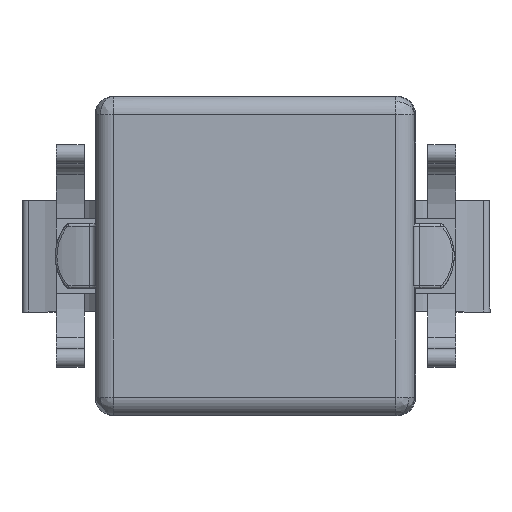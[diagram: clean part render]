
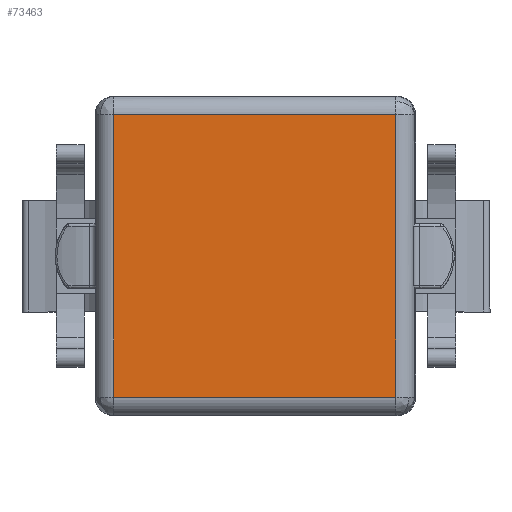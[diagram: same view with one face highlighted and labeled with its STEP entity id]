
A CAD part, top view. The second image highlights one B-rep face of the part: STEP entity #73463.
In plain terms, the highlighted planar face has unit normal (0, 0, 1).
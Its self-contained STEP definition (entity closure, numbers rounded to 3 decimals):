
#2880=DIRECTION('',(0.,1.,0.));
#2881=VECTOR('',#2880,30.4);
#2882=CARTESIAN_POINT('',(15.2,-14.401,23.672));
#2883=LINE('',#2882,#2881);
#3460=DIRECTION('',(1.,0.,0.));
#3461=VECTOR('',#3460,30.4);
#3462=CARTESIAN_POINT('',(-15.2,-14.401,23.672));
#3463=LINE('',#3462,#3461);
#3511=DIRECTION('',(0.,-1.,0.));
#3512=VECTOR('',#3511,30.4);
#3513=CARTESIAN_POINT('',(-15.2,15.999,23.672));
#3514=LINE('',#3513,#3512);
#4107=DIRECTION('',(-1.,0.,0.));
#4108=VECTOR('',#4107,30.4);
#4109=CARTESIAN_POINT('',(15.2,15.999,23.672));
#4110=LINE('',#4109,#4108);
#67816=CARTESIAN_POINT('',(-15.2,-14.401,23.672));
#67818=VERTEX_POINT('',#67816);
#67915=CARTESIAN_POINT('',(15.2,-14.401,23.672));
#67916=VERTEX_POINT('',#67915);
#67971=CARTESIAN_POINT('',(-15.2,15.999,23.672));
#67972=VERTEX_POINT('',#67971);
#67975=CARTESIAN_POINT('',(15.2,15.999,23.672));
#67976=VERTEX_POINT('',#67975);
#73452=CARTESIAN_POINT('',(0.,0.799,23.672));
#73453=DIRECTION('',(0.,0.,1.));
#73454=DIRECTION('',(1.,0.,0.));
#73455=AXIS2_PLACEMENT_3D('',#73452,#73453,#73454);
#73456=PLANE('',#73455);
#73457=ORIENTED_EDGE('',*,*,#72524,.F.);
#73458=ORIENTED_EDGE('',*,*,#72573,.F.);
#73459=ORIENTED_EDGE('',*,*,#73421,.F.);
#73460=ORIENTED_EDGE('',*,*,#71811,.F.);
#73461=EDGE_LOOP('',(#73457,#73458,#73459,#73460));
#73462=FACE_OUTER_BOUND('',#73461,.F.);
#73463=ADVANCED_FACE('',(#73462),#73456,.T.);
#71811=EDGE_CURVE('',#67916,#67976,#2883,.T.);
#72524=EDGE_CURVE('',#67818,#67916,#3463,.T.);
#72573=EDGE_CURVE('',#67972,#67818,#3514,.T.);
#73421=EDGE_CURVE('',#67976,#67972,#4110,.T.);
